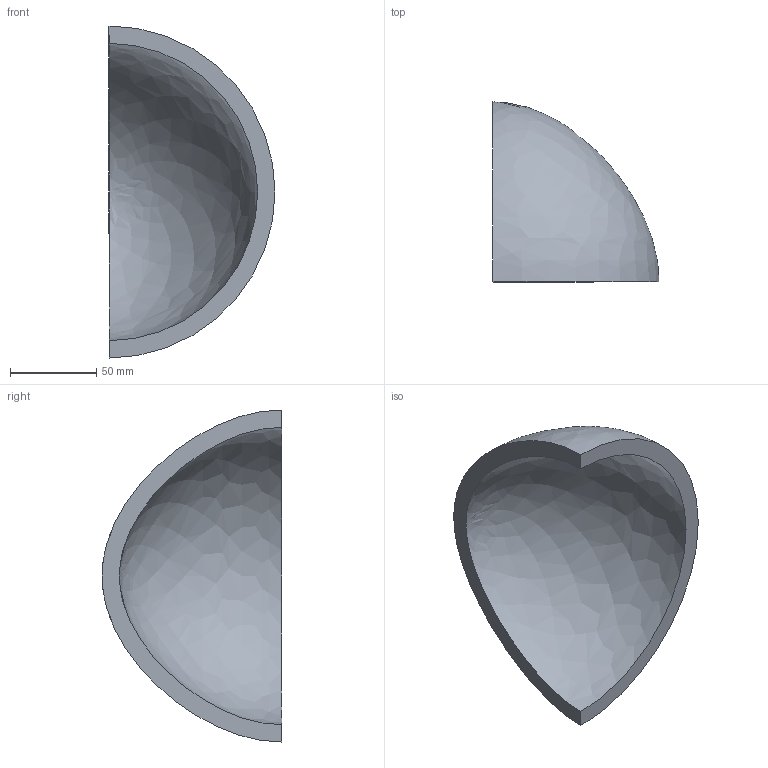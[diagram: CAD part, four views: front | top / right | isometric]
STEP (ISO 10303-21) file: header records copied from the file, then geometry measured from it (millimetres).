
FILE_DESCRIPTION(('CATIA V5 STEP Exchange'),'2;1');
FILE_NAME('C:\_Andres\UNIVERSIDAD\IQS\ASIGNATURAS\DAO\EXF\EXF-16172c\2inicio\Bonilla_Arrufat_Ej10_v4.stp','2017-03-05T22:31:08+00:00',('none'),('none'),'CATIA Version 5-6 Release 2014 SP1 HF18','CATIA V5 STEP AP203','none');
FILE_SCHEMA(('CONFIG_CONTROL_DESIGN'));
Length unit declared in the file: millimetre
Products named in the file (1): Bonilla_Arrufat_Ej10_v4
Bounding box: 96 x 104 x 192 mm (x, y, z)
Volume: 262433.8 mm3; surface area: 58371.8 mm2
Topology: 1 solids, 1 shells, 4 faces, 10 edges, 6 vertices
Faces by surface type: revolution 2, plane 2
Entity records: 233 total; most frequent: CARTESIAN_POINT 111, ORIENTED_EDGE 16, DIRECTION 10, EDGE_CURVE 8, B_SPLINE_CURVE_WITH_KNOTS 6, VERTEX_POINT 6, AXIS2_PLACEMENT_3D 5, ADVANCED_FACE 4
